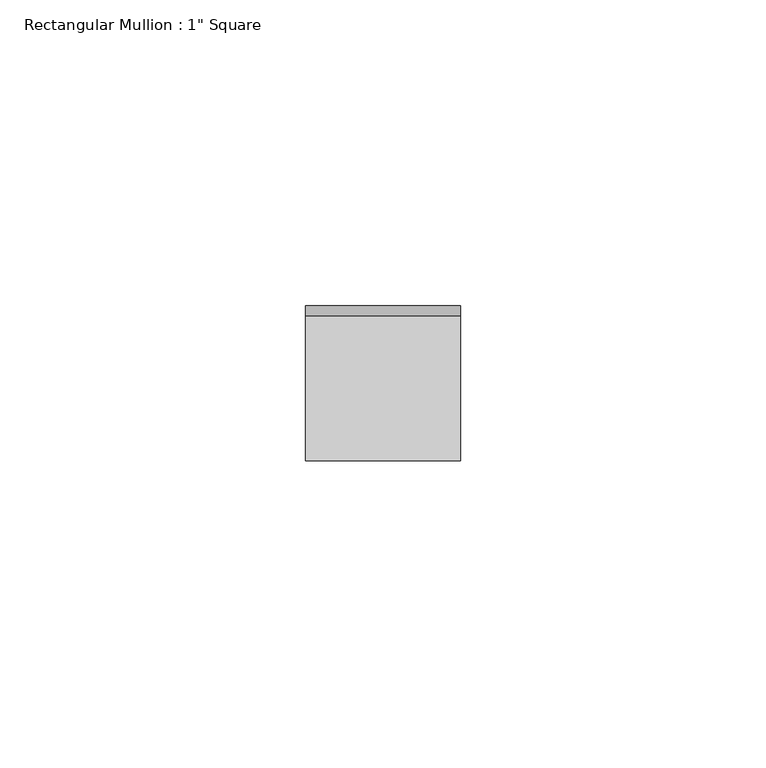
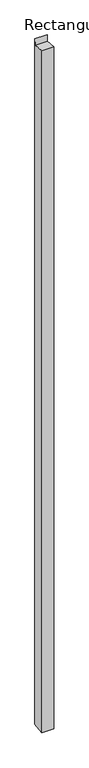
"""IFC4 building model written with IfcOpenShell, lengths in millimetres: member geometry."""

from ifc_helpers import new_model, si_unit, frame, origin, place, context, project, spatial, polyline, outline, extrude, source, transform, mapped, element, save


def member_50c0a876(model_context):
    return source(origin(), model_context, "Body", "SweptSolid", [
        extrude(outline(polyline([(-12.7, 1.4996528), (11.0128906, -1.4878906), (12.7, 11.903125), (12.7, -1509.6999504), (-12.7, -1512.9000496), (-12.7, 1.4996528)])), frame((-25.4, 0.0, 0.0), z_axis=(1.0, 0.0, 0.0), x_axis=(0.0, 1.0, 0.0)), (0.0, 0.0, 1.0), 25.4),
    ])


if __name__ == "__main__":
    model = new_model("IFC4")
    model_context = context("Model", 3, world=origin())
    ifc_project = project(units=[si_unit("LENGTHUNIT", "METRE", prefix="MILLI")], contexts=[model_context])
    site = spatial("IfcSite", under=ifc_project)
    building = spatial("IfcBuilding", under=site)
    placement = place(None, origin())
    member_shape = member_50c0a876(model_context)
    element("IfcMember", 1, ObjectType="Rectangular Mullion : 1\" Square", at=placement, inside=building, context=model_context, shape_type="MappedRepresentation", body=[
        mapped(member_shape, transform((0.0, 0.0, 0.0), x_axis=(1.0, 0.0, 0.0), y_axis=(0.0, 1.0, 0.0), z_axis=(0.0, 0.0, 1.0))),
    ])
    save(model, "model.ifc")
